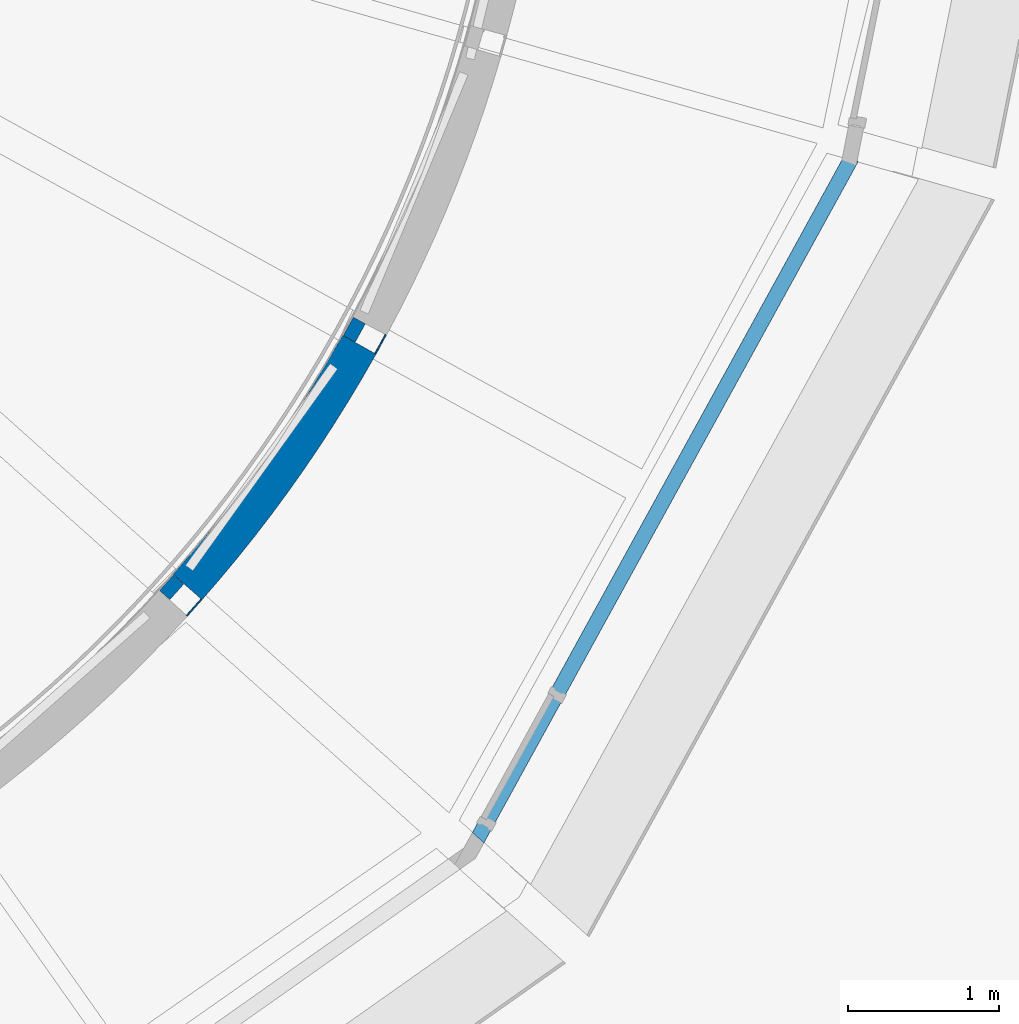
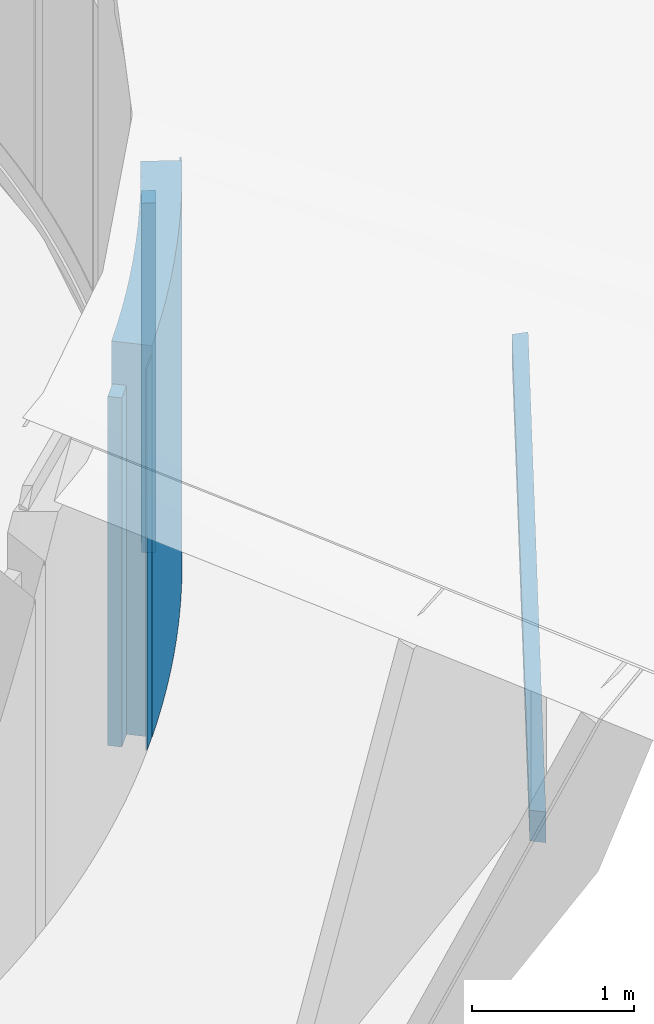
# One storey, part 29 of 66: 6 walls.
"""IFC2X3 building model written with IfcOpenShell, lengths in millimetres."""

from ifc_helpers import new_model, entity, si_unit, converted_unit, derived_unit, direction, frame, frame_2d, origin, place, context, subcontext, project, spatial, polyline, circle_curve, parameter, trimmed, segment, composite_curve, rectangle, outline, extrude, material, layer, layer_set, layer_usage, type_object, element, save


model = new_model("IFC2X3")

# Units and contexts
model_context = context("Model", 3, precision=0.01, world=origin(), true_north=direction((6.12303176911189e-17, 1.0)))
body_context = subcontext(model_context, "Body", "Model", "MODEL_VIEW")
ifc_project = project(units=[si_unit("LENGTHUNIT", "METRE", prefix="MILLI"), si_unit("AREAUNIT", "SQUARE_METRE"), si_unit("VOLUMEUNIT", "CUBIC_METRE"), converted_unit("PLANEANGLEUNIT", "DEGREE", entity("IfcRatioMeasure", 0.0174532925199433), si_unit("PLANEANGLEUNIT", "RADIAN"), dimensions=[0, 0, 0, 0, 0, 0, 0]), si_unit("MASSUNIT", "GRAM", prefix="KILO"), derived_unit("MASSDENSITYUNIT", [(si_unit("MASSUNIT", "GRAM", prefix="KILO"), 1), (si_unit("LENGTHUNIT", "METRE"), -3)]), derived_unit("MOMENTOFINERTIAUNIT", [(si_unit("LENGTHUNIT", "METRE"), 4)]), si_unit("TIMEUNIT", "SECOND"), si_unit("FREQUENCYUNIT", "HERTZ"), si_unit("THERMODYNAMICTEMPERATUREUNIT", "DEGREE_CELSIUS"), derived_unit("THERMALTRANSMITTANCEUNIT", [(si_unit("MASSUNIT", "GRAM", prefix="KILO"), 1), (si_unit("THERMODYNAMICTEMPERATUREUNIT", "KELVIN"), -1), (si_unit("TIMEUNIT", "SECOND"), -3)]), derived_unit("VOLUMETRICFLOWRATEUNIT", [(si_unit("LENGTHUNIT", "METRE"), 3), (si_unit("TIMEUNIT", "SECOND"), -1)]), si_unit("ELECTRICCURRENTUNIT", "AMPERE"), si_unit("ELECTRICVOLTAGEUNIT", "VOLT"), si_unit("POWERUNIT", "WATT"), si_unit("FORCEUNIT", "NEWTON", prefix="KILO"), si_unit("ILLUMINANCEUNIT", "LUX"), si_unit("LUMINOUSFLUXUNIT", "LUMEN"), si_unit("LUMINOUSINTENSITYUNIT", "CANDELA"), derived_unit("USERDEFINED", [(si_unit("MASSUNIT", "GRAM", prefix="KILO"), -1), (si_unit("LENGTHUNIT", "METRE"), -2), (si_unit("TIMEUNIT", "SECOND"), 3), (si_unit("LUMINOUSFLUXUNIT", "LUMEN"), 1)]), derived_unit("LINEARVELOCITYUNIT", [(si_unit("LENGTHUNIT", "METRE"), 1), (si_unit("TIMEUNIT", "SECOND"), -1)]), si_unit("PRESSUREUNIT", "PASCAL"), derived_unit("USERDEFINED", [(si_unit("LENGTHUNIT", "METRE"), -2), (si_unit("MASSUNIT", "GRAM", prefix="KILO"), 1), (si_unit("TIMEUNIT", "SECOND"), -2)]), derived_unit("LINEARFORCEUNIT", [(si_unit("MASSUNIT", "GRAM", prefix="KILO"), 1), (si_unit("LENGTHUNIT", "METRE"), 1), (si_unit("TIMEUNIT", "SECOND"), -2), (si_unit("LENGTHUNIT", "METRE"), -1)]), derived_unit("PLANARFORCEUNIT", [(si_unit("MASSUNIT", "GRAM", prefix="KILO"), 1), (si_unit("LENGTHUNIT", "METRE"), 1), (si_unit("TIMEUNIT", "SECOND"), -2), (si_unit("LENGTHUNIT", "METRE"), -2)])], contexts=[model_context])

# Site, building, storey
site_placement = place(None, origin())
site = spatial("IfcSite", under=ifc_project, at=site_placement, Name="Default", CompositionType="ELEMENT")
building_placement = place(site_placement, origin())
building = spatial("IfcBuilding", under=site, at=building_placement, Name="-", CompositionType="ELEMENT")
storey_placement = place(building_placement, frame((0.0, 0.0, 3070.0)))
storey = spatial("IfcBuildingStorey", under=building, at=storey_placement, Name="01 eerste verdieping", CompositionType="ELEMENT", Elevation=3070.00000000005)

# Walls
ifc_material_1 = material(Name="NLRS_f7_gipsplaat_gen")
ifc_layer_1 = layer(ifc_material_1, 12.5)
ifc_material_2 = material(Name="NLRS_m1_isolatie")
ifc_layer_2 = layer(ifc_material_2, 75.0)
ifc_layer_3 = layer(ifc_material_1, 12.5)
ifc_layer_set_1 = layer_set([ifc_layer_1, ifc_layer_2, ifc_layer_3], Name="Basic Wall:NLRS_21_WA_Metalstud 100mm")
ifc_layer_usage_1 = layer_usage(ifc_layer_set_1, "AXIS2", "NEGATIVE", 50.0)
wall_type_1 = type_object("IfcWallType", Name="Basic Wall:NLRS_21_WA_Metalstud 100mm", PredefinedType="STANDARD", material=ifc_layer_set_1)
wall_1_placement = place(storey_placement, frame((59569.4436194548, 11777.102331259, -370.0), z_axis=(0.0, 0.0, 1.0), x_axis=(0.481556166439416, 0.876415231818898, 0.0)))
element("IfcWallStandardCase", 1, at=wall_1_placement, inside=storey, type_object=wall_type_1, material=ifc_layer_usage_1, Name="Basic Wall:NLRS_21_WA_Metalstud 100mm", ObjectType="Basic Wall:NLRS_21_WA_Metalstud 100mm", context=body_context, shape_type="SweptSolid", body=[
    extrude(outline(polyline([(5158.84957409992, -50.0), (5135.80951981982, 50.0), (23.1335935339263, 50.0), (0.0, -50.0), (5158.84957409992, -50.0)])), origin(), (0.0, 0.0, 1.0), 231.000000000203),
])
ifc_material_3 = material(Name="NLRS_i4_hout_multiplex")
ifc_layer_4 = layer(ifc_material_3, 10.0)
ifc_layer_5 = layer(ifc_material_2, 235.0)
ifc_layer_6 = layer(ifc_material_3, 10.0)
ifc_layer_set_2 = layer_set([ifc_layer_4, ifc_layer_5, ifc_layer_6], Name="Basic Wall:NLRS_21_WA_HSB-wand_268mm (zonder gips)")
ifc_layer_usage_2 = layer_usage(ifc_layer_set_2, "AXIS2", "NEGATIVE", 127.5)
wall_type_2 = type_object("IfcWallType", Name="Basic Wall:NLRS_21_WA_HSB-wand_268mm (zonder gips)", PredefinedType="STANDARD", material=ifc_layer_set_2)
wall_2_placement = place(storey_placement, frame((57647.5082997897, 13450.266902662, 100.0)))
element("IfcWallStandardCase", 2, at=wall_2_placement, inside=storey, type_object=wall_type_2, material=ifc_layer_usage_2, Name="Basic Wall:NLRS_21_WA_HSB-wand_268mm (zonder gips)", ObjectType="Basic Wall:NLRS_21_WA_HSB-wand_268mm (zonder gips)", context=body_context, shape_type="SweptSolid", body=[
    extrude(outline(composite_curve([segment(trimmed(circle_curve(frame_2d((-7000.94563777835, 6165.79282630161), x_axis=(1.0, 0.0)), 9201.5), [parameter(318.629350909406)], [parameter(330.750909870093)], True, "PARAMETER"), False, "CONTINUOUS"), segment(polyline([(-95.6823420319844, 84.2682586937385), (95.682342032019, -84.2682586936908)]), True, "CONTINUOUS"), segment(trimmed(circle_curve(frame_2d((-7000.94563777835, 6165.79282630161), x_axis=(1.0, 0.0)), 9456.5), [parameter(318.629350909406)], [parameter(330.750909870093)], True, "PARAMETER"), True, "CONTINUOUS"), segment(polyline([(1249.88622899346, 1545.27708060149), (1027.39776856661, 1669.8719640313)]), True, "CONTINUOUS")], self_intersect=False)), origin(), (0.0, 0.0, 1.0), 2945.0),
])
ifc_material_4 = material(Name="NLRS_n7_isolatie PIR_gen")
ifc_layer_7 = layer(ifc_material_4, 90.0)
ifc_layer_set_3 = layer_set([ifc_layer_7], Name="Basic Wall:NLRS_22_WA_LB_isolatie PIR 90mm")
ifc_layer_usage_3 = layer_usage(ifc_layer_set_3, "AXIS2", "NEGATIVE", 45.0)
wall_type_3 = type_object("IfcWallType", Name="Basic Wall:NLRS_22_WA_LB_isolatie PIR 90mm", PredefinedType="STANDARD", material=ifc_layer_set_3)
wall_3_placement = place(storey_placement, frame((57495.9904298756, 13396.8193147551, 100.0), z_axis=(0.0, 0.0, 1.0), x_axis=(0.666460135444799, 0.745540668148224, 0.0)))
element("IfcWallStandardCase", 3, at=wall_3_placement, inside=storey, type_object=wall_type_3, material=ifc_layer_usage_3, Name="Basic Wall:NLRS_22_WA_LB_isolatie PIR 90mm", ObjectType="Basic Wall:NLRS_22_WA_LB_isolatie PIR 90mm", context=body_context, shape_type="SweptSolid", body=[
    extrude(rectangle(XDim=138.777284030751, YDim=90.0000000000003, at=frame_2d((69.3886420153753, -4.29878355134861e-13), x_axis=(-1.0, 0.0))), origin(), (0.0, 0.0, 1.0), 2625.73599912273),
])
ifc_layer_usage_4 = layer_usage(ifc_layer_set_3, "AXIS2", "NEGATIVE", 45.0)
wall_4_placement = place(storey_placement, frame((58719.5611846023, 15096.0907266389, 100.0), z_axis=(0.0, 0.0, 1.0), x_axis=(0.481716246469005, 0.876327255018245, 0.0)))
element("IfcWallStandardCase", 4, at=wall_4_placement, inside=storey, type_object=wall_type_3, material=ifc_layer_usage_4, Name="Basic Wall:NLRS_22_WA_LB_isolatie PIR 90mm", ObjectType="Basic Wall:NLRS_22_WA_LB_isolatie PIR 90mm", context=body_context, shape_type="SweptSolid", body=[
    extrude(rectangle(XDim=139.195666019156, YDim=89.9999999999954, at=frame_2d((69.5978330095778, 3.09086090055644e-13), x_axis=(-1.0, 0.0))), origin(), (0.0, 0.0, 1.0), 2625.73599912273),
])
ifc_material_5 = material(Name="NLRS_i4_hout_multiplex wit")
ifc_layer_8 = layer(ifc_material_5, 9.0)
ifc_layer_set_4 = layer_set([ifc_layer_8], Name="Basic Wall:NLRS_41_WA_plaatmateriaal 9mm_gen_aly")
ifc_layer_usage_5 = layer_usage(ifc_layer_set_4, "AXIS2", "NEGATIVE", 4.5)
wall_type_4 = type_object("IfcWallType", Name="Basic Wall:NLRS_41_WA_plaatmateriaal 9mm_gen_aly", PredefinedType="STANDARD", material=ifc_layer_set_4)
wall_5_placement = place(storey_placement, frame((57738.9917805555, 13369.6502795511, 100.0), z_axis=(0.0, 0.0, 1.0), x_axis=(-0.666706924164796, -0.74531998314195, 0.0)))
element("IfcWallStandardCase", 5, at=wall_5_placement, inside=storey, type_object=wall_type_4, material=ifc_layer_usage_5, Name="Basic Wall:NLRS_41_WA_plaatmateriaal 9mm_gen_aly", ObjectType="Basic Wall:NLRS_41_WA_plaatmateriaal 9mm_gen_aly", context=body_context, shape_type="SweptSolid", body=[
    extrude(rectangle(XDim=145.995633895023, YDim=9.00000000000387, at=frame_2d((72.9978169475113, 7.20756787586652e-13), x_axis=(-1.0, 0.0))), origin(), (0.0, 0.0, 1.0), 2870.0),
])
ifc_layer_usage_6 = layer_usage(ifc_layer_set_4, "AXIS2", "NEGATIVE", 4.5)
wall_6_placement = place(storey_placement, frame((58961.9244228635, 15124.4073972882, 100.0), z_axis=(0.0, 0.0, 1.0), x_axis=(-0.481946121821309, -0.876200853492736, 0.0)))
element("IfcWallStandardCase", 6, at=wall_6_placement, inside=storey, type_object=wall_type_4, material=ifc_layer_usage_6, Name="Basic Wall:NLRS_41_WA_plaatmateriaal 9mm_gen_aly", ObjectType="Basic Wall:NLRS_41_WA_plaatmateriaal 9mm_gen_aly", context=body_context, shape_type="SweptSolid", body=[
    extrude(rectangle(XDim=143.933491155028, YDim=9.00000000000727, at=frame_2d((71.9667455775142, 2.22044604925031e-15), x_axis=(-1.0, 0.0))), origin(), (0.0, 0.0, 1.0), 2870.0),
])

save(model, "model.ifc")
